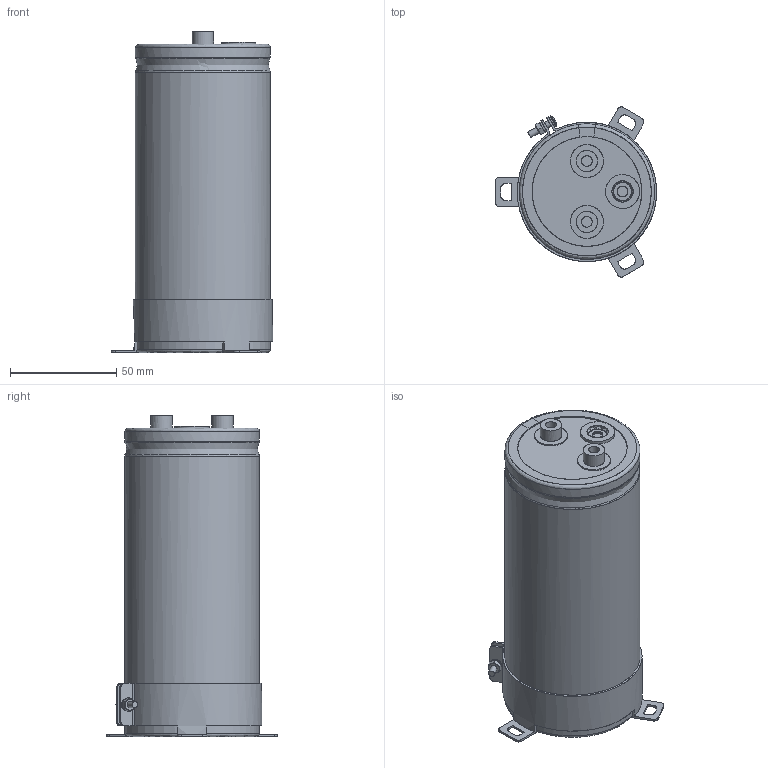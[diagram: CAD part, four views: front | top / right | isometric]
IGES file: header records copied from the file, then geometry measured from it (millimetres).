
Start section: JAMA-IS VERSION  1.0
Bounding box: 75.75 x 80.01 x 151 mm (x, y, z)
Surface area: 107739.5 mm2 (no closed solid volume)
Topology: 0 solids, 0 shells, 259 faces, 4436 edges, 4409 vertices
Faces by surface type: bspline 259
